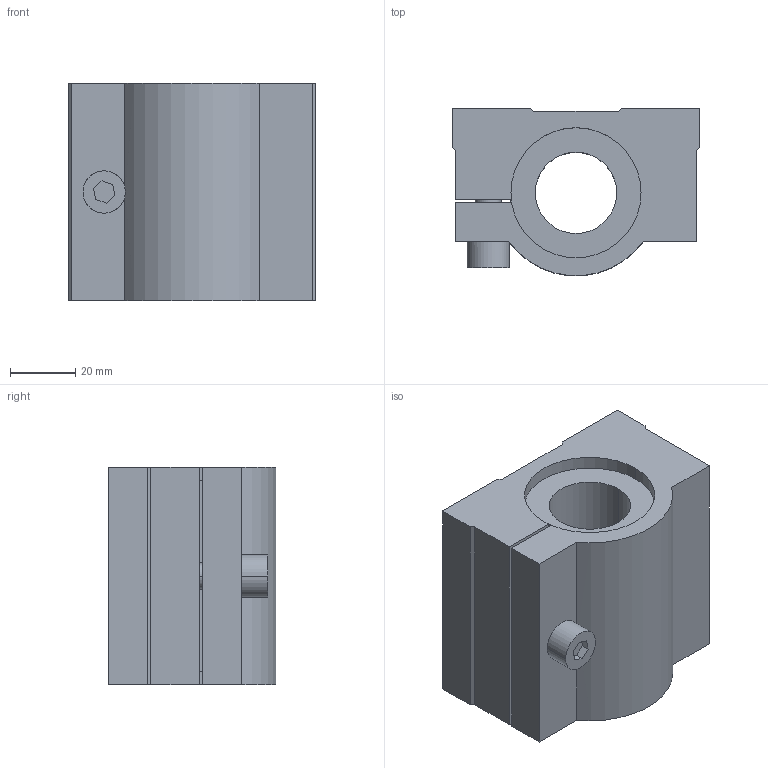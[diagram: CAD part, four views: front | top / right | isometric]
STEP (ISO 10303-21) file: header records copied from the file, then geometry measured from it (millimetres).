
FILE_DESCRIPTION((''),'2;1');
FILE_NAME('C:\Documents and Settings\ｿﾀﾀ蠑ｷ1\ｹﾙﾅﾁ ﾈｭｸ饅\ｺﾎﾇｰﾆﾄﾀﾏ\ﾁｦﾇｰ\SCJ__UU\SCJ25UU.stp','2005-06-22T17:48:03',('ｿﾀﾀ蠑ｷ1'),(''),'Autodesk Inventor 9','Autodesk Inventor 9','');
FILE_SCHEMA(('AUTOMOTIVE_DESIGN { 1 0 10303 214 1 1 1 1 }'));
Length unit declared in the file: millimetre
Products named in the file (1): SCJ__UU
Bounding box: 76 x 51.41 x 67 mm (x, y, z)
Volume: 183347.8 mm3; surface area: 30928.8 mm2
Topology: 1 solids, 1 shells, 56 faces, 145 edges, 90 vertices
Faces by surface type: plane 29, bspline 16, cylinder 11
Entity records: 1888 total; most frequent: CARTESIAN_POINT 562, ORIENTED_EDGE 274, DIRECTION 255, EDGE_CURVE 137, VECTOR 97, LINE 97, VERTEX_POINT 90, AXIS2_PLACEMENT_3D 79
